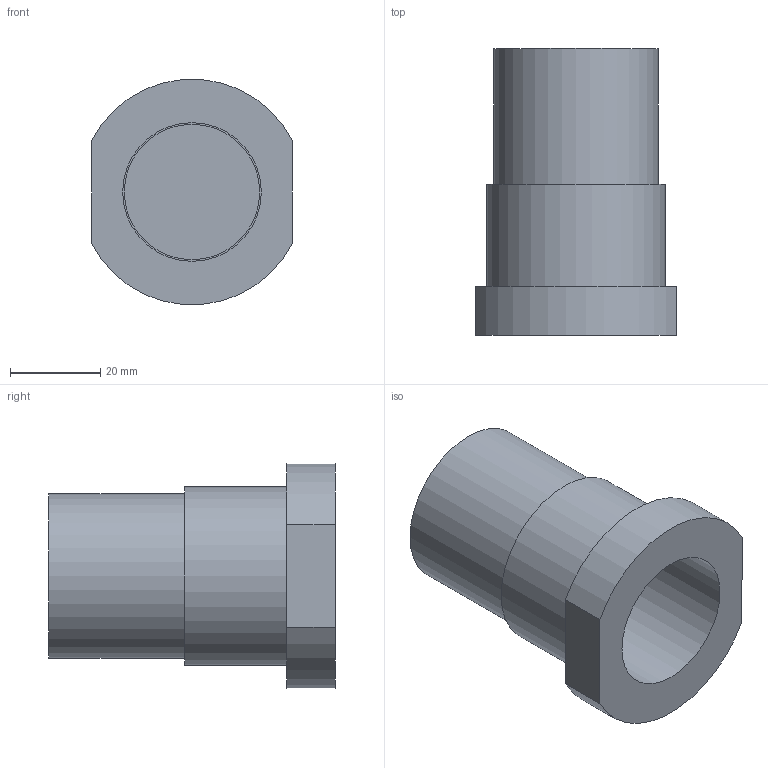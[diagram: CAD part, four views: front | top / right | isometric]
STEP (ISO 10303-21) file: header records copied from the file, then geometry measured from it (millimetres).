
FILE_DESCRIPTION((''),'2;1');
FILE_NAME('C:\TurckZip\TWD-30S.stp','2010-12-02T07:42:23',('IKOROL'),(''),'Autodesk Inventor 2010','Autodesk Inventor 2010','');
FILE_SCHEMA(('CONFIG_CONTROL_DESIGN'));
Length unit declared in the file: millimetre
Products named in the file (1): Part4
Bounding box: 44.5 x 63.5 x 49.82 mm (x, y, z)
Volume: 35232.6 mm3; surface area: 17531.5 mm2
Topology: 1 solids, 1 shells, 14 faces, 24 edges, 16 vertices
Faces by surface type: plane 8, cylinder 6
Full cylindrical faces by diameter (mm): 30 x1, 30.7 x1, 36.5 x1, 39.6 x1
Entity records: 346 total; most frequent: DIRECTION 62, CARTESIAN_POINT 51, ORIENTED_EDGE 40, AXIS2_PLACEMENT_3D 27, EDGE_LOOP 22, EDGE_CURVE 20, VERTEX_POINT 16, FACE_OUTER_BOUND 14
